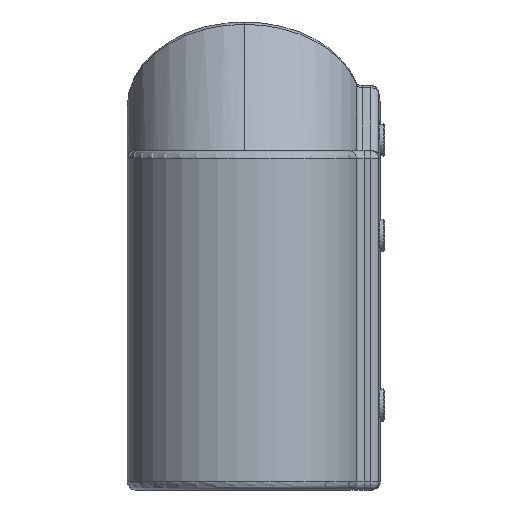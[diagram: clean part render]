
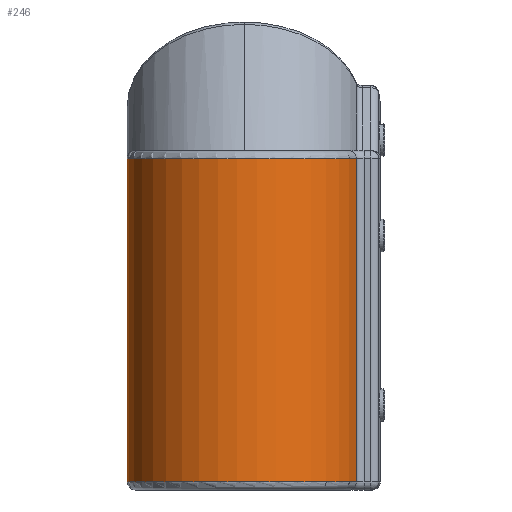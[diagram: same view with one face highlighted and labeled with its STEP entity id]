
A CAD part, front view. The second image highlights one B-rep face of the part: STEP entity #246.
In plain terms, the highlighted cylindrical face has radius 33.972 mm (diameter 67.945 mm), a partial arc.
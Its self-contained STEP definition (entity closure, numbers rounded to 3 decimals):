
#246=ADVANCED_FACE('',(#473),#1985,.T.);
#473=FACE_OUTER_BOUND('',#706,.F.);
#706=EDGE_LOOP('',(#1161,#1162,#1163,#1164));
#1161=ORIENTED_EDGE('',*,*,#2648,.F.);
#1162=ORIENTED_EDGE('',*,*,#2649,.F.);
#1163=ORIENTED_EDGE('',*,*,#2650,.F.);
#1164=ORIENTED_EDGE('',*,*,#2651,.F.);
#1985=CYLINDRICAL_SURFACE('',#3890,33.973);
#2074=LINE('',#5395,#2273);
#2075=LINE('',#5397,#2274);
#2273=VECTOR('',#4100,93.828);
#2274=VECTOR('',#4103,93.828);
#2648=EDGE_CURVE('',#3560,#3559,#2074,.T.);
#2649=EDGE_CURVE('',#3558,#3560,#3173,.T.);
#2650=EDGE_CURVE('',#3557,#3558,#2075,.T.);
#2651=EDGE_CURVE('',#3559,#3557,#3174,.T.);
#3173=CIRCLE('',#3682,33.973);
#3174=CIRCLE('',#3683,33.973);
#3557=VERTEX_POINT('',#5254);
#3558=VERTEX_POINT('',#5255);
#3559=VERTEX_POINT('',#5256);
#3560=VERTEX_POINT('',#5257);
#3682=AXIS2_PLACEMENT_3D('',#5396,#4101,#4102);
#3683=AXIS2_PLACEMENT_3D('',#5398,#4104,#4105);
#3890=AXIS2_PLACEMENT_3D('',#6831,#4633,#4634);
#4100=DIRECTION('',(0.,0.,1.));
#4101=DIRECTION('',(0.,0.,1.));
#4102=DIRECTION('',(-1.,0.,0.));
#4103=DIRECTION('',(0.,0.,-1.));
#4104=DIRECTION('',(0.,0.,-1.));
#4105=DIRECTION('',(0.959,-0.283,0.));
#4633=DIRECTION('',(0.,0.,-1.));
#4634=DIRECTION('',(0.98,-0.199,0.));
#5254=CARTESIAN_POINT('',(-33.973,0.,46.914));
#5255=CARTESIAN_POINT('',(-33.973,0.,-46.914));
#5256=CARTESIAN_POINT('',(32.579,-9.63,46.914));
#5257=CARTESIAN_POINT('',(32.579,-9.63,-46.914));
#5395=CARTESIAN_POINT('',(32.579,-9.63,-46.914));
#5396=CARTESIAN_POINT('',(0.,0.,-46.914));
#5397=CARTESIAN_POINT('',(-33.973,0.,46.914));
#5398=CARTESIAN_POINT('',(0.,0.,46.914));
#6831=CARTESIAN_POINT('',(0.,0.,-51.605));
